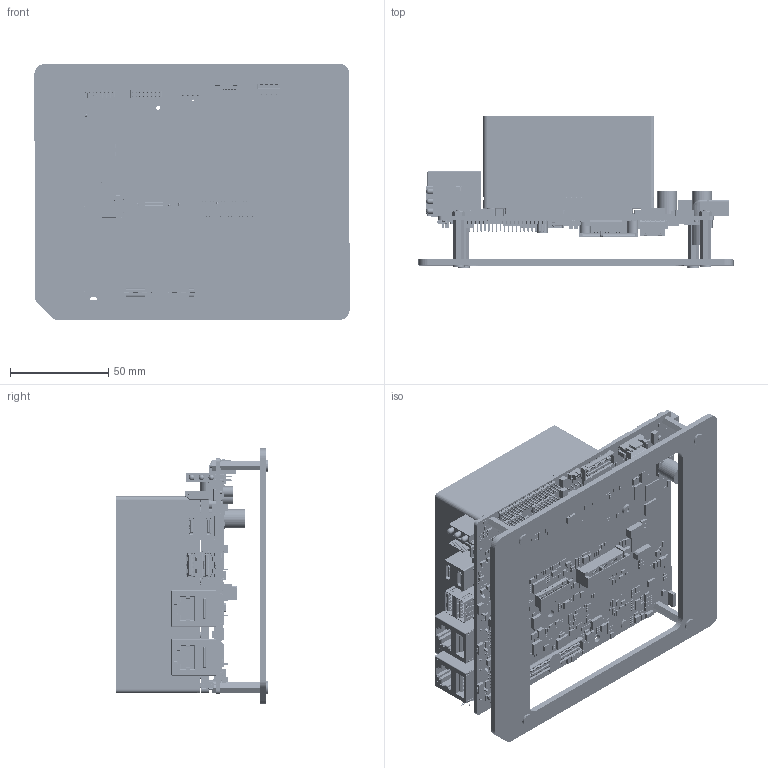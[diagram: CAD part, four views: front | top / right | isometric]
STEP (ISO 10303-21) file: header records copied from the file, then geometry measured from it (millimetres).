
FILE_DESCRIPTION((''),'2;1');
FILE_NAME('THOR00_ASM','2025-11-05T11:41:22',('Lenovo'),(''),'CREO PARAMETRIC BY PTC INC, 2022073','CREO PARAMETRIC BY PTC INC, 2022073','');
FILE_SCHEMA(('AUTOMOTIVE_DESIGN { 1 0 10303 214 1 1 1 1 }'));
Products named in the file (217): BOARD_3; R1206_2; R0402_2; C0402_2; ACW4532B-2-510TF_2; NUP2105L_2; KLXES15AAA1_2; BTC-641-BN01_2; AT24C02D-MAHM-T_2; SI7149ADP-T1-GE3_2; AONR21321_2; 74LVC1G32SE-7_2; 74AUP1G08SE-7_2; 74LV1T08GWH_2; 74LVC1G17GW_2; TPS3840DL20DBVR_2; NCA1051N-DSPR_2; SDCW2012U-2-900TF_2; SDCW2012H-2-900TF_2; BDFN10A054U_2; XAL1580-102MEB_2; 7443551130_2; W25X10CLSNIG_2; NAE12S20-C_2; LT8390EFE_2; NAM12S06-D_2; ASM1806_2; PXTD010M227E040STU_2; BDFN2C051U2_2; BSD3C051L2_2; BDFN2C051V40_2; LBZT52C3V3T1G_2; SMBJ12CA_2; RB521S30T1G_2; HDR200M-1X4_2; NTS4001NT1G_2; PMV32UP_2; MMBT3904LT1_2; FDV301N_2; R0805_2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
Assembly tree (1587 placements, depth 8):
  THOR00_ASM
    00_ASM_38_ASM
      0002_ASM_5_ASM
        Y-C28-V1-0_0811A1_ASM_2_ASM
          Y-C28-V1-0_0811A1_1_ASM_2_ASM
            BOARD_3
            COMPONENTS_ASM_3_ASM
              R1206_2  x8
              R0402_2  x607
              C0402_2  x331
              ACW4532B-2-510TF_2  x4
              NUP2105L_2  x4
              KLXES15AAA1_2  x70
              BTC-641-BN01_2
              AT24C02D-MAHM-T_2
              SI7149ADP-T1-GE3_2
              AONR21321_2
              74LVC1G32SE-7_2
              74AUP1G08SE-7_2
              74LV1T08GWH_2
              74LVC1G17GW_2
              TPS3840DL20DBVR_2
              NCA1051N-DSPR_2  x4
              SDCW2012U-2-900TF_2  x11
              SDCW2012H-2-900TF_2  x4
              BDFN10A054U_2  x3
              XAL1580-102MEB_2
              7443551130_2
              W25X10CLSNIG_2
              NAE12S20-C_2  x2
              LT8390EFE_2
              NAM12S06-D_2
              ASM1806_2
              PXTD010M227E040STU_2  x2
              BDFN2C051U2_2  x26
              BSD3C051L2_2  x8
              BDFN2C051V40_2
              LBZT52C3V3T1G_2
              SMBJ12CA_2
              RB521S30T1G_2
              HDR200M-1X4_2
              NTS4001NT1G_2  x8
              PMV32UP_2  x2
              MMBT3904LT1_2
              FDV301N_2
              R0805_2  x16
              HD3SS3220IRNHR_2  x2
              SGM2576YN5G_2  x5
              NCP380HSNAJAAT1G_2  x2
              EFM8SB10F2G-A-QFN20_2
              SN74LVC1G07DBVR_2
              MX25L512EMI-10G_2
              UPD720201K8-711-BAC-A_2
              PA2512FKF7T0R001E_2
              WSL36376L000FEA_2  x2
              NCA9306-DTSHR_2  x2
              NAE12S03-B_2  x6
              TP40_2  x19
              T521D107M025ATE040_2  x10
              SD05_2  x4
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Bounding box: 160.1 x 76.78 x 130.12 mm (x, y, z)
Volume: 458551.7 mm3; surface area: 255118 mm2
Topology: 1556 solids, 1567 shells, 33274 faces, 88184 edges, 58178 vertices
Faces by surface type: plane 26604, cylinder 5496, extrusion 315, cone 290, bspline 242, sphere 209, torus 118
Entity records: 855577 total; most frequent: CARTESIAN_POINT 160489, ORIENTED_EDGE 123788, DIRECTION 120217, EDGE_CURVE 61894, VECTOR 50075, LINE 49833, VERTEX_POINT 40837, AXIS2_PLACEMENT_3D 35071
